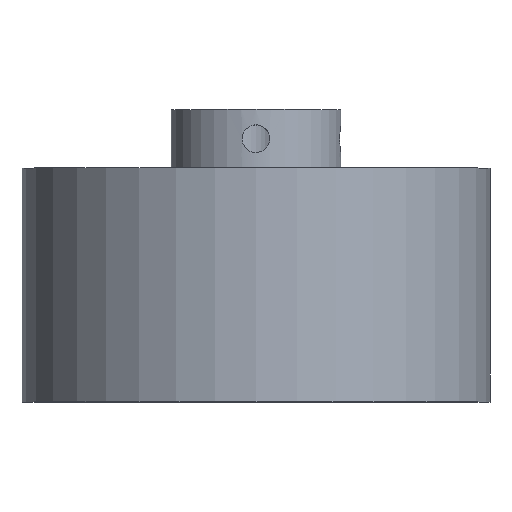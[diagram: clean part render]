
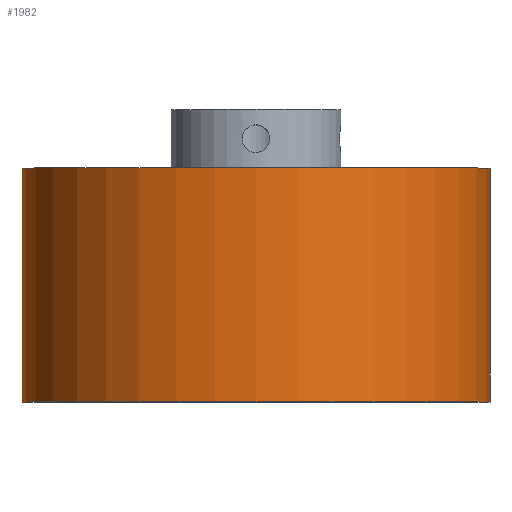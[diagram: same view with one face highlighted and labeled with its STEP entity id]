
A CAD part, top view. The second image highlights one B-rep face of the part: STEP entity #1982.
In plain terms, the highlighted cylindrical face has radius 50.8 mm (diameter 101.6 mm), a full revolution.
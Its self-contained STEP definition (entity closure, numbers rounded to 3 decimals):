
#270=FACE_OUTER_BOUND('',#364,.T.);
#364=EDGE_LOOP('',(#1623,#1624,#1625,#1626));
#550=LINE('',#3317,#696);
#696=VECTOR('',#2771,50.8);
#815=CIRCLE('',#2212,50.8);
#816=CIRCLE('',#2213,50.8);
#991=VERTEX_POINT('',#3314);
#992=VERTEX_POINT('',#3316);
#1262=EDGE_CURVE('',#991,#991,#815,.T.);
#1263=EDGE_CURVE('',#991,#992,#550,.T.);
#1264=EDGE_CURVE('',#992,#992,#816,.T.);
#1623=ORIENTED_EDGE('',*,*,#1262,.F.);
#1624=ORIENTED_EDGE('',*,*,#1263,.T.);
#1625=ORIENTED_EDGE('',*,*,#1264,.T.);
#1626=ORIENTED_EDGE('',*,*,#1263,.F.);
#1892=CYLINDRICAL_SURFACE('',#2211,50.8);
#1982=ADVANCED_FACE('',(#270),#1892,.T.);
#2211=AXIS2_PLACEMENT_3D('',#3313,#2767,#2768);
#2212=AXIS2_PLACEMENT_3D('',#3315,#2769,#2770);
#2213=AXIS2_PLACEMENT_3D('',#3318,#2772,#2773);
#2767=DIRECTION('center_axis',(0.,1.,0.));
#2768=DIRECTION('ref_axis',(-1.,0.,0.));
#2769=DIRECTION('center_axis',(0.,1.,0.));
#2770=DIRECTION('ref_axis',(-1.,0.,0.));
#2771=DIRECTION('',(0.,-1.,0.));
#2772=DIRECTION('center_axis',(0.,1.,0.));
#2773=DIRECTION('ref_axis',(-1.,0.,0.));
#3313=CARTESIAN_POINT('Origin',(0.,0.,0.));
#3314=CARTESIAN_POINT('',(50.8,50.8,0.));
#3315=CARTESIAN_POINT('Origin',(0.,50.8,0.));
#3316=CARTESIAN_POINT('',(50.8,0.,0.));
#3317=CARTESIAN_POINT('',(50.8,0.,0.));
#3318=CARTESIAN_POINT('Origin',(0.,0.,0.));
